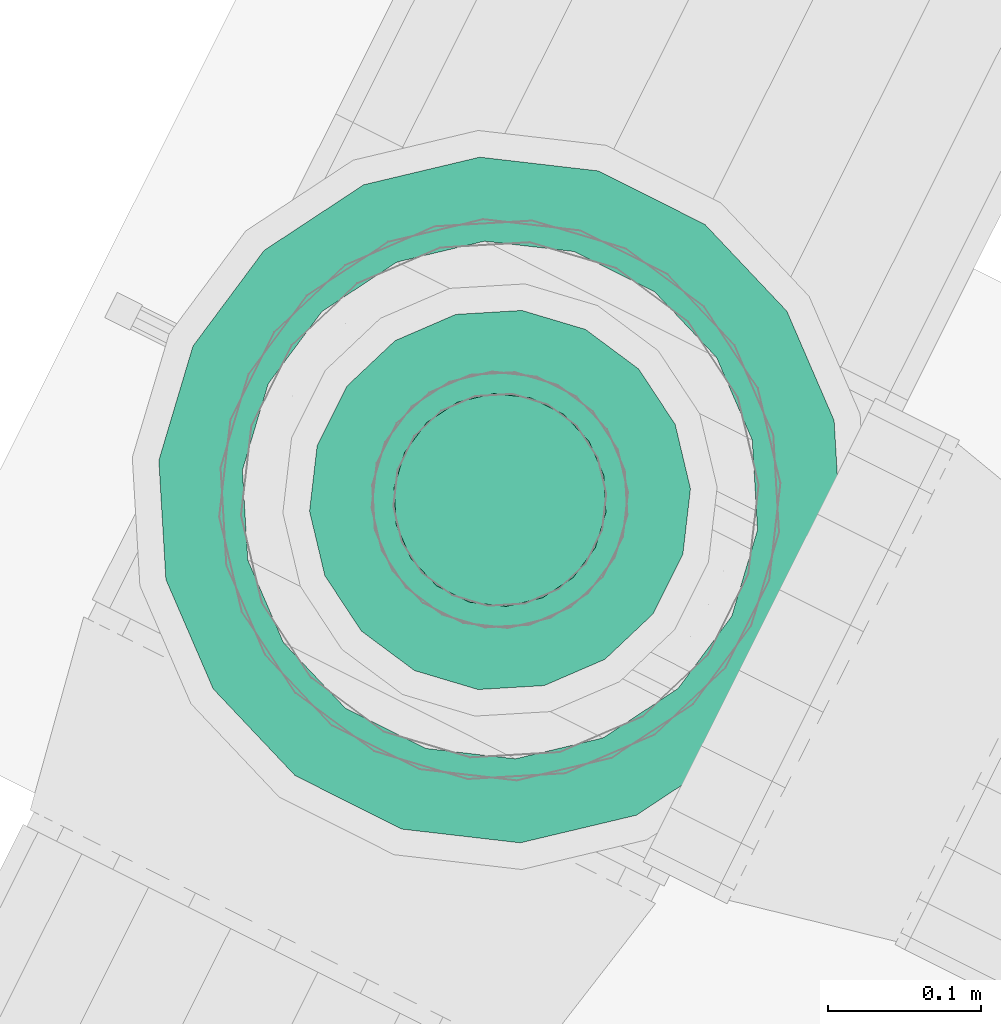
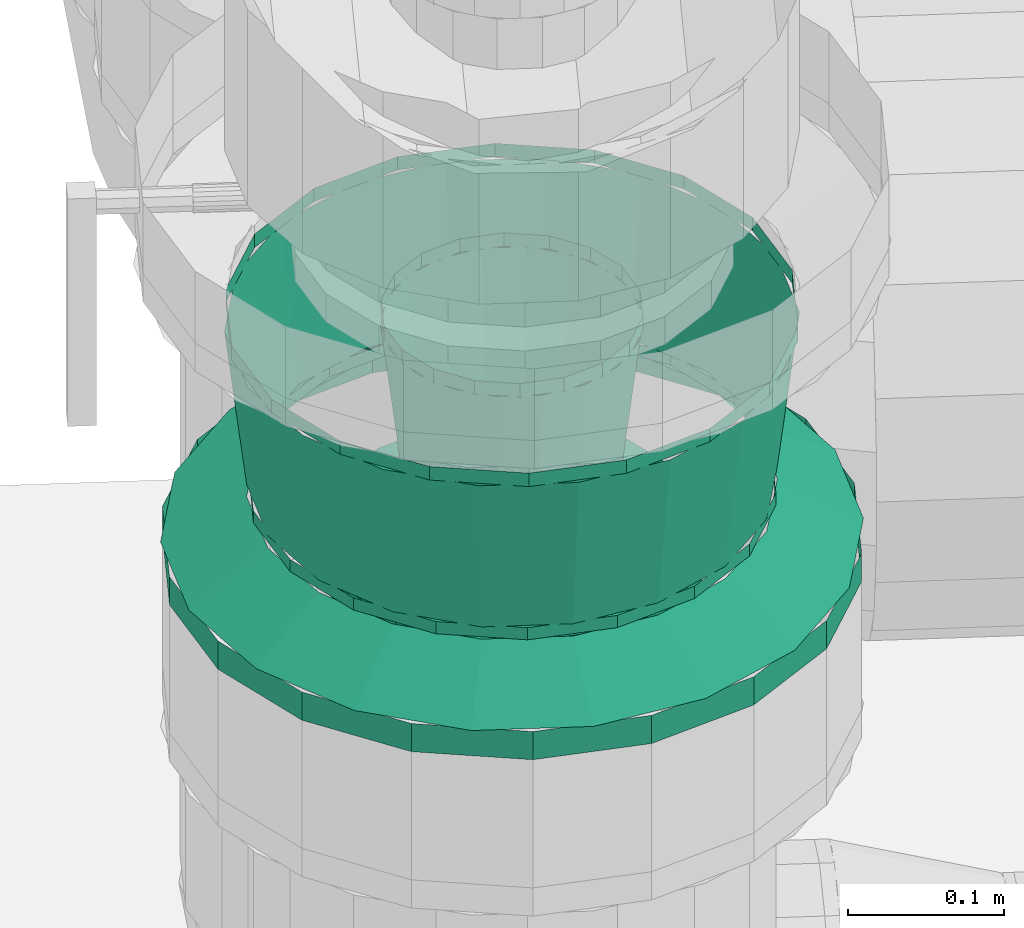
# One storey, part 107 of 152: 2 flow fittings.
"""IFC2X3 building model written with IfcOpenShell, lengths in metres."""

import ifcopenshell
import ifcopenshell.guid

model = None  # the IFC model being written
_history = None  # IfcOwnerHistory: only IFC2X3 demands one
_inside = {}  # id of a spatial element -> (the spatial element, [elements in it])
_under = {}  # id of a project, library or spatial element -> (it, [spatial elements below it])
_declared = {}  # id of a project -> (the project, [libraries it declares])
_typed = {}  # id of a type object -> (the type object, [elements of that type])
_made_of = {}  # id of a material, layer set ... -> (it, [elements and type objects made of it])


def new_model(schema):
    """Start an empty IFC model of exactly this schema.

    Asked for "IFC4X3", IfcOpenShell would pick the latest addendum, in which some entities
    have other attributes; the version numbers below select the first issue.
    IFC2X3 requires an IfcOwnerHistory on every rooted entity: one is made here for all.
    """
    global model, _history
    if schema == "IFC4X3":
        model = ifcopenshell.file(schema_version=(4, 3, 0, 0))
    else:
        model = ifcopenshell.file(schema=schema)
    _inside.clear()
    _under.clear()
    _declared.clear()
    _typed.clear()
    _made_of.clear()
    _history = None
    if model.schema == "IFC2X3":
        org = make("IfcOrganization", Name="unknown")
        user = make(
            "IfcPersonAndOrganization",
            ThePerson=make("IfcPerson", FamilyName="unknown"),
            TheOrganization=org,
        )
        app = make(
            "IfcApplication",
            ApplicationDeveloper=org,
            Version="unknown",
            ApplicationFullName="unknown",
            ApplicationIdentifier="unknown",
        )
        _history = make(
            "IfcOwnerHistory",
            OwningUser=user,
            OwningApplication=app,
            ChangeAction="ADDED",
            CreationDate=0,
        )
    return model


def make(cls, **values):
    """One entity of the class cls with the attributes given. An attribute that is None is left unset."""
    return model.create_entity(
        cls, **{name: value for name, value in values.items() if value is not None}
    )


def rooted(cls, **values):
    """An entity with a GlobalId (a new one), such as an element, a storey or a relation."""
    return make(cls, GlobalId=ifcopenshell.guid.new(), OwnerHistory=_history, **values)


def si_unit(unit_type, name, prefix=None):
    """IfcSIUnit, for example si_unit("LENGTHUNIT", "METRE", prefix="MILLI")."""
    return make("IfcSIUnit", UnitType=unit_type, Prefix=prefix, Name=name)


def derived_unit(unit_type, elements):
    """IfcDerivedUnit: a product of units, each with its exponent."""
    return make(
        "IfcDerivedUnit",
        Elements=[
            make("IfcDerivedUnitElement", Unit=unit, Exponent=power)
            for unit, power in elements
        ],
        UnitType=unit_type,
    )


def assignment(units):
    """IfcUnitAssignment: the units of a project."""
    return None if units is None else make("IfcUnitAssignment", Units=units)


def point(xyz):
    """IfcCartesianPoint."""
    return None if xyz is None else make("IfcCartesianPoint", Coordinates=xyz)


def direction(xyz):
    """IfcDirection."""
    return None if xyz is None else make("IfcDirection", DirectionRatios=xyz)


def frame(location, z_axis=None, x_axis=None):
    """IfcAxis2Placement3D, a coordinate frame: its origin and axes. An axis left out is left unset."""
    return make(
        "IfcAxis2Placement3D",
        Location=point(location),
        Axis=direction(z_axis),
        RefDirection=direction(x_axis),
    )


def origin():
    """The frame at (0, 0, 0) with its axes left unset."""
    return frame((0.0, 0.0, 0.0))


def place(relative_to, where):
    """IfcLocalPlacement: puts the frame where relative to a parent placement (None: the world)."""
    return make(
        "IfcLocalPlacement", PlacementRelTo=relative_to, RelativePlacement=where
    )


def context(
    kind, dimensions, precision=None, world=None, true_north=None, identifier=None
):
    """IfcGeometricRepresentationContext, for example the 3D "Model" context."""
    return make(
        "IfcGeometricRepresentationContext",
        ContextIdentifier=identifier,
        ContextType=kind,
        CoordinateSpaceDimension=dimensions,
        Precision=precision,
        WorldCoordinateSystem=world,
        TrueNorth=true_north,
    )


def subcontext(parent, identifier, kind, view, scale=None):
    """IfcGeometricRepresentationSubContext, for example "Body" below "Model"."""
    return make(
        "IfcGeometricRepresentationSubContext",
        ContextIdentifier=identifier,
        ContextType=kind,
        ParentContext=parent,
        TargetScale=scale,
        TargetView=view,
    )


def project(units=None, contexts=None):
    """IfcProject with its units and contexts."""
    return rooted(
        "IfcProject",
        Name="project",
        RepresentationContexts=contexts,
        UnitsInContext=assignment(units),
    )


def spatial(cls, under=None, at=None, **own):
    """A site, building, storey or space (cls), placed at a placement, below another one or the project."""
    s = rooted(cls, ObjectPlacement=at, **own)
    if under is not None:
        _under.setdefault(under.id(), (under, []))[1].append(s)
    return s


def faces_of(points, faces, orient=None, outer=None):
    """IfcFace entities. A face is a list of loops; a loop is a list of indices into points, from 0.

    orient and outer hold one flag for each loop. By default every Orientation is true, the
    first loop of a face is its IfcFaceOuterBound and the others are IfcFaceBound.
    """
    made = []
    for i, loops in enumerate(faces):
        bounds = []
        for j, loop in enumerate(loops):
            is_outer = j == 0 if outer is None else outer[i][j]
            bounds.append(
                make(
                    "IfcFaceOuterBound" if is_outer else "IfcFaceBound",
                    Bound=make("IfcPolyLoop", Polygon=[points[k] for k in loop]),
                    Orientation=True if orient is None else orient[i][j],
                )
            )
        made.append(make("IfcFace", Bounds=bounds))
    return made


def face_set(faces, orient=None, outer=None):
    """The faces of one IfcConnectedFaceSet. surface_model builds it on its shared points."""
    return ("IfcConnectedFaceSet", faces, orient, outer)


def surface_model(cls, points, shells):
    """IfcFaceBasedSurfaceModel or IfcShellBasedSurfaceModel (cls): surfaces that need not close."""
    shared = [point(p) for p in points]
    made = [make(c, CfsFaces=faces_of(shared, fs, o, b)) for c, fs, o, b in shells]
    if cls == "IfcFaceBasedSurfaceModel":
        return make(cls, FbsmFaces=made)
    return make(cls, SbsmBoundary=made)


def shape(context_of_items, identifier, shape_type, items):
    """IfcShapeRepresentation: the items that make up one representation, for example the "Body"."""
    return make(
        "IfcShapeRepresentation",
        ContextOfItems=context_of_items,
        RepresentationIdentifier=identifier,
        RepresentationType=shape_type,
        Items=items,
    )


def source(mapping_origin, context_of_items, identifier, shape_type, items):
    """IfcRepresentationMap: a shape defined once, which mapped items show again and again."""
    return make(
        "IfcRepresentationMap",
        MappingOrigin=mapping_origin,
        MappedRepresentation=shape(context_of_items, identifier, shape_type, items),
    )


def transform(
    local_origin,
    x_axis=None,
    y_axis=None,
    z_axis=None,
    scale=None,
    scale2=None,
    scale3=None,
    uniform=True,
):
    """IfcCartesianTransformationOperator3D, or its non-uniform kind. x_axis, y_axis, z_axis: its Axis1, 2, 3."""
    if uniform:
        return make(
            "IfcCartesianTransformationOperator3D",
            Axis1=direction(x_axis),
            Axis2=direction(y_axis),
            LocalOrigin=point(local_origin),
            Scale=scale,
            Axis3=direction(z_axis),
        )
    return make(
        "IfcCartesianTransformationOperator3DnonUniform",
        Axis1=direction(x_axis),
        Axis2=direction(y_axis),
        LocalOrigin=point(local_origin),
        Scale=scale,
        Axis3=direction(z_axis),
        Scale2=scale2,
        Scale3=scale3,
    )


def mapped(mapping_source, mapping_target):
    """IfcMappedItem: shows the shape of a source again, moved by a transform."""
    return make(
        "IfcMappedItem", MappingSource=mapping_source, MappingTarget=mapping_target
    )


def material(Name=None, Category=None):
    """IfcMaterial."""
    return make("IfcMaterial", Name=Name, Category=Category)


def made_of(thing, what):
    """Note that an element or type object is made of a material, layer set ...; save() writes the relation."""
    if what is not None:
        _made_of.setdefault(what.id(), (what, []))[1].append(thing)
    return thing


def type_object(cls, material=None, **own):
    """A type object (cls), such as IfcWallType, which elements share."""
    return made_of(rooted(cls, **own), material)


def type_shapes(of_type, sources):
    """Give a type object the sources (RepresentationMaps) that its elements show as mapped items."""
    of_type.RepresentationMaps = sources


def element(
    cls,
    number,
    at=None,
    inside=None,
    cuts=None,
    type_object=None,
    material=None,
    context=None,
    identifier="Body",
    shape_type=None,
    held_by="IfcProductDefinitionShape",
    body=None,
    shapes=None,
    **own,
):
    """One element of the class cls, such as IfcWall. Its Tag is "e" and its number.

    at: its placement. inside: the storey or other place that contains it. cuts: it is an
    opening in that element (IfcRelVoidsElement). A single representation is given by context,
    identifier, shape_type and body (its items); several are given by shapes. held_by: the class
    of the entity that holds the representations. save() writes the other relations.
    """
    e = rooted(cls, Tag="e%d" % number, ObjectPlacement=at, **own)
    if body is not None:
        shapes = [shape(context, identifier, shape_type, body)]
    if shapes is not None:
        e.Representation = make(held_by, Representations=shapes)
    if inside is not None:
        _inside.setdefault(inside.id(), (inside, []))[1].append(e)
    if cuts is not None:
        rooted(
            "IfcRelVoidsElement", RelatingBuildingElement=cuts, RelatedOpeningElement=e
        )
    if type_object is not None:
        _typed.setdefault(type_object.id(), (type_object, []))[1].append(e)
    return made_of(e, material)


def aggregate(whole, parts):
    """IfcRelAggregates: a whole, such as a stair, and the parts it consists of."""
    return rooted("IfcRelAggregates", RelatingObject=whole, RelatedObjects=parts)


def save(model, path):
    """Write the relations noted so far, then the file.

    IfcRelAggregates (storeys below a building ...), IfcRelContainedInSpatialStructure (elements
    in a storey), IfcRelDefinesByType, IfcRelAssociatesMaterial and IfcRelDeclares: one each for
    every whole, place, type object, material and project.
    """
    for whole, parts in _under.values():
        aggregate(whole, parts)
    for where, things in _inside.values():
        rooted(
            "IfcRelContainedInSpatialStructure",
            RelatedElements=things,
            RelatingStructure=where,
        )
    for kind, things in _typed.values():
        rooted("IfcRelDefinesByType", RelatedObjects=things, RelatingType=kind)
    for what, things in _made_of.values():
        rooted("IfcRelAssociatesMaterial", RelatedObjects=things, RelatingMaterial=what)
    for by, libraries in _declared.values():
        rooted("IfcRelDeclares", RelatingContext=by, RelatedDefinitions=libraries)
    model.write(path)


model = new_model("IFC2X3")

# Units and contexts
model_context = context("Model", 3, precision=5.2338327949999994e-05, world=origin(), true_north=direction((0.0, 1.0)))
body_context = subcontext(model_context, "Body", "Model", "MODEL_VIEW")
ifc_project = project(units=[si_unit("LENGTHUNIT", "METRE"), si_unit("AREAUNIT", "SQUARE_METRE"), si_unit("VOLUMEUNIT", "CUBIC_METRE"), si_unit("MASSUNIT", "GRAM", prefix="KILO"), si_unit("PLANEANGLEUNIT", "RADIAN"), derived_unit("THERMALTRANSMITTANCEUNIT", [(si_unit("MASSUNIT", "GRAM", prefix="KILO"), 1), (si_unit("THERMODYNAMICTEMPERATUREUNIT", "KELVIN"), -1), (si_unit("TIMEUNIT", "SECOND"), -3)])], contexts=[model_context])

# Site, building, storey
site_placement = place(None, frame((0.0, 0.0, 0.0), z_axis=(0.0, 0.0, 1.0), x_axis=(0.8939966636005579, -0.4480736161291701, 0.0)))
site = spatial("IfcSite", under=ifc_project, at=site_placement, Name="Default", CompositionType="ELEMENT")
building_placement = place(site_placement, origin())
building = spatial("IfcBuilding", under=site, at=building_placement, CompositionType="ELEMENT")
storey_placement = place(building_placement, frame((0.0, 0.0, 2.7499999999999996)))
storey = spatial("IfcBuildingStorey", under=building, at=storey_placement, Name="1. Obergeschoss", CompositionType="ELEMENT", Elevation=2.7499999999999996)

# Flow fittings
ifc_material = material(Name="IfcSurfaceStyle #9317")
distribution_element_type_1 = type_object("IfcDistributionElementType", Name="Flansch 236932:Flansch 236932", material=ifc_material)
shared_shape_1 = source(origin(), body_context, "Body", "SurfaceModel", [
    surface_model("IfcFaceBasedSurfaceModel", [(9.625770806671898, 6.466748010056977, 4.27507198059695), (9.668523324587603, 6.4742864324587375, 4.27507198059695), (9.668523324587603, 6.4742864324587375, 4.297071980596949), (9.625770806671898, 6.466748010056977, 4.297071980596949), (9.706119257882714, 6.495992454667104, 4.27507198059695), (9.706119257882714, 6.495992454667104, 4.297071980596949), (9.734023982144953, 6.5292480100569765, 4.27507198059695), (9.734023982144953, 6.5292480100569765, 4.297071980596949), (9.748871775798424, 6.57004198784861, 4.27507198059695), (9.748871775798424, 6.57004198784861, 4.297071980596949), (9.748871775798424, 6.613454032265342, 4.27507198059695), (9.748871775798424, 6.613454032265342, 4.297071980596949), (9.734023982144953, 6.654248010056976, 4.27507198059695), (9.734023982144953, 6.654248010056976, 4.297071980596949), (9.706119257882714, 6.687503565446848, 4.27507198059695), (9.706119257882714, 6.687503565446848, 4.297071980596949), (9.668523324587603, 6.709209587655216, 4.27507198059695), (9.668523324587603, 6.709209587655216, 4.297071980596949), (9.625770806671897, 6.716748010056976, 4.27507198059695), (9.625770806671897, 6.716748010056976, 4.297071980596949), (9.583018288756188, 6.709209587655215, 4.27507198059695), (9.583018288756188, 6.709209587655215, 4.297071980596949), (9.54542235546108, 6.687503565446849, 4.27507198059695), (9.54542235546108, 6.687503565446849, 4.297071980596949), (9.517517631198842, 6.654248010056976, 4.27507198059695), (9.517517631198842, 6.654248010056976, 4.297071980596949), (9.50266983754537, 6.613454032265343, 4.27507198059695), (9.50266983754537, 6.613454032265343, 4.297071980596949), (9.50266983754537, 6.57004198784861, 4.27507198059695), (9.50266983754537, 6.57004198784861, 4.297071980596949), (9.517517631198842, 6.5292480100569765, 4.27507198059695), (9.517517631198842, 6.5292480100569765, 4.297071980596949), (9.545422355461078, 6.495992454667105, 4.27507198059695), (9.545422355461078, 6.495992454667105, 4.297071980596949), (9.583018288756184, 6.4742864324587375, 4.27507198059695), (9.583018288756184, 6.4742864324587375, 4.297071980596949), (9.625770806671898, 6.5917480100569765, 4.297071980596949), (9.703770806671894, 6.591748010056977, 4.297071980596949), (9.699066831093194, 6.61842558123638, 4.297071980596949), (9.69140833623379, 6.615638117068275, 4.33007198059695), (9.695620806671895, 6.591748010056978, 4.3300719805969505), (9.685522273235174, 6.641885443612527, 4.297071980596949), (9.679279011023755, 6.636646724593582, 4.33007198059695), (9.664770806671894, 6.6592979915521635, 4.297071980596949), (9.660695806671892, 6.652239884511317, 4.33007198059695), (9.639315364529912, 6.668563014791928, 4.297071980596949), (9.637900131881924, 6.660536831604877, 4.33007198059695), (9.612226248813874, 6.668563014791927, 4.297071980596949), (9.613641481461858, 6.660536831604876, 4.33007198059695), (9.586770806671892, 6.659297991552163, 4.297071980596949), (9.590845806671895, 6.652239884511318, 4.33007198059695), (9.56601934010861, 6.641885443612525, 4.297071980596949), (9.572262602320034, 6.636646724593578, 4.33007198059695), (9.552474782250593, 6.618425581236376, 4.297071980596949), (9.560133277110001, 6.61563811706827, 4.33007198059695), (9.547770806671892, 6.591748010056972, 4.297071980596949), (9.555920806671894, 6.591748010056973, 4.33007198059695), (9.552474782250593, 6.565070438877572, 4.297071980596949), (9.560133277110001, 6.5678579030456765, 4.33007198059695), (9.566019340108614, 6.541610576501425, 4.297071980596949), (9.572262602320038, 6.546849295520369, 4.33007198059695), (9.586770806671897, 6.52419802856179, 4.297071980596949), (9.590845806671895, 6.531256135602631, 4.330071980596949), (9.612226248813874, 6.514933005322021, 4.29707198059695), (9.613641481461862, 6.522959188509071, 4.33007198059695), (9.639315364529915, 6.514933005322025, 4.297071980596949), (9.63790013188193, 6.5229591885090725, 4.33007198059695), (9.664770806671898, 6.52419802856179, 4.297071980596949), (9.660695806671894, 6.531256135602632, 4.33007198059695), (9.685522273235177, 6.5416105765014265, 4.297071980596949), (9.679279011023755, 6.546849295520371, 4.33007198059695), (9.699066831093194, 6.5650704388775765, 4.297071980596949), (9.691408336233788, 6.567857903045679, 4.330071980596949), (9.625770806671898, 6.366748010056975, 4.27507198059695), (9.702725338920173, 6.380317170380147, 4.27507198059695), (9.702725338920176, 6.380317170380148, 4.297071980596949), (9.6257708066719, 6.366748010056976, 4.297071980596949), (9.770398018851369, 6.419388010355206, 4.27507198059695), (9.77039801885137, 6.419388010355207, 4.297071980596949), (9.8206265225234, 6.479248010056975, 4.27507198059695), (9.820626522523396, 6.479248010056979, 4.297071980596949), (9.847352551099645, 6.552677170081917, 4.27507198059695), (9.84735255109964, 6.552677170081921, 4.297071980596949), (9.847352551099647, 6.630818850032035, 4.27507198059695), (9.847352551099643, 6.63081885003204, 4.297071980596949), (9.820626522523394, 6.704248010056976, 4.27507198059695), (9.820626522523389, 6.70424801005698, 4.297071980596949), (9.770398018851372, 6.764108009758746, 4.27507198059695), (9.770398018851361, 6.76410800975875, 4.297071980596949), (9.702725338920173, 6.803178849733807, 4.27507198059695), (9.702725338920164, 6.803178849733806, 4.297071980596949), (9.625770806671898, 6.816748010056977, 4.27507198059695), (9.625770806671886, 6.816748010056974, 4.297071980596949), (9.548816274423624, 6.803178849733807, 4.27507198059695), (9.548816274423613, 6.803178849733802, 4.297071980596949), (9.481143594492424, 6.764108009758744, 4.27507198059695), (9.481143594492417, 6.764108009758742, 4.297071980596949), (9.430915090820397, 6.704248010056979, 4.27507198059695), (9.430915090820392, 6.704248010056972, 4.297071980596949), (9.404189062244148, 6.6308188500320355, 4.27507198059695), (9.404189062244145, 6.630818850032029, 4.297071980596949), (9.404189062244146, 6.5526771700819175, 4.27507198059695), (9.404189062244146, 6.5526771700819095, 4.297071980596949), (9.430915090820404, 6.479248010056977, 4.27507198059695), (9.430915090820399, 6.4792480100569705, 4.297071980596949), (9.481143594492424, 6.419388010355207, 4.27507198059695), (9.481143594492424, 6.419388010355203, 4.297071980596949), (9.548816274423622, 6.380317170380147, 4.27507198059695), (9.548816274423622, 6.3803171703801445, 4.297071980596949), (9.850770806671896, 6.59174801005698, 4.297071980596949), (9.837201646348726, 6.668702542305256, 4.297071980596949), (9.785377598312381, 6.649840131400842, 4.330071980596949), (9.795620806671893, 6.591748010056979, 4.33007198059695), (9.79813080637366, 6.736375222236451, 4.297071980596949), (9.75588345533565, 6.700925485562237, 4.330071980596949), (9.738270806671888, 6.786603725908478, 4.297071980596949), (9.710695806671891, 6.738842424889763, 4.33007198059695), (9.664841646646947, 6.813329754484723, 4.297071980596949), (9.65526494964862, 6.7590176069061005, 4.330071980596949), (9.58669996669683, 6.813329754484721, 4.29707198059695), (9.596276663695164, 6.759017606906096, 4.33007198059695), (9.513270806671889, 6.7866037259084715, 4.297071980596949), (9.540845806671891, 6.73884242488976, 4.330071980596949), (9.453410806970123, 6.7363752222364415, 4.297071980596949), (9.495658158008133, 6.70092548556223, 4.33007198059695), (9.414339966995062, 6.668702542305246, 4.29707198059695), (9.46616401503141, 6.649840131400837, 4.33007198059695), (9.400770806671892, 6.591748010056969, 4.297071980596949), (9.455920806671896, 6.591748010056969, 4.330071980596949), (9.414339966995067, 6.514793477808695, 4.297071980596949), (9.466164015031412, 6.533655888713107, 4.33007198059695), (9.45341080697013, 6.447120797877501, 4.297071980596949), (9.495658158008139, 6.482570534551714, 4.330071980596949), (9.5132708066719, 6.3968922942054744, 4.29707198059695), (9.540845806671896, 6.444653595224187, 4.33007198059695), (9.586699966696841, 6.370166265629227, 4.297071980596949), (9.59627666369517, 6.424478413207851, 4.330071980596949), (9.664841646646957, 6.370166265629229, 4.297071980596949), (9.655264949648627, 6.4244784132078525, 4.330071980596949), (9.738270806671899, 6.396892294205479, 4.29707198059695), (9.710695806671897, 6.44465359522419, 4.33007198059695), (9.798130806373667, 6.447120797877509, 4.297071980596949), (9.755883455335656, 6.48257053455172, 4.330071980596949), (9.837201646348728, 6.5147934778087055, 4.297071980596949), (9.785377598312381, 6.533655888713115, 4.330071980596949)], [face_set([[[0, 1, 2, 3]], [[1, 4, 5, 2]], [[4, 6, 7, 5]], [[6, 8, 9, 7]], [[8, 10, 11, 9]], [[10, 12, 13, 11]], [[12, 14, 15, 13]], [[14, 16, 17, 15]], [[16, 18, 19, 17]], [[18, 20, 21, 19]], [[20, 22, 23, 21]], [[22, 24, 25, 23]], [[24, 26, 27, 25]], [[26, 28, 29, 27]], [[28, 30, 31, 29]], [[30, 32, 33, 31]], [[32, 34, 35, 33]], [[34, 0, 3, 35]], [[36, 35, 3]], [[36, 33, 35]], [[36, 31, 33]], [[36, 29, 31]], [[36, 27, 29]], [[36, 25, 27]], [[36, 23, 25]], [[36, 21, 23]], [[36, 19, 21]], [[36, 17, 19]], [[36, 15, 17]], [[36, 13, 15]], [[36, 11, 13]], [[36, 9, 11]], [[36, 7, 9]], [[36, 5, 7]], [[36, 2, 5]], [[36, 3, 2]], [[37, 38, 39, 40]], [[38, 41, 42, 39]], [[41, 43, 44, 42]], [[43, 45, 46, 44]], [[45, 47, 48, 46]], [[47, 49, 50, 48]], [[49, 51, 52, 50]], [[51, 53, 54, 52]], [[53, 55, 56, 54]], [[55, 57, 58, 56]], [[57, 59, 60, 58]], [[59, 61, 62, 60]], [[61, 63, 64, 62]], [[63, 65, 66, 64]], [[65, 67, 68, 66]], [[67, 69, 70, 68]], [[69, 71, 72, 70]], [[71, 37, 40, 72]], [[73, 74, 75, 76]], [[74, 77, 78, 75]], [[77, 79, 80, 78]], [[79, 81, 82, 80]], [[81, 83, 84, 82]], [[83, 85, 86, 84]], [[85, 87, 88, 86]], [[87, 89, 90, 88]], [[89, 91, 92, 90]], [[91, 93, 94, 92]], [[93, 95, 96, 94]], [[95, 97, 98, 96]], [[97, 99, 100, 98]], [[99, 101, 102, 100]], [[101, 103, 104, 102]], [[103, 105, 106, 104]], [[105, 107, 108, 106]], [[107, 73, 76, 108]], [[109, 110, 111, 112]], [[110, 113, 114, 111]], [[113, 115, 116, 114]], [[115, 117, 118, 116]], [[117, 119, 120, 118]], [[119, 121, 122, 120]], [[121, 123, 124, 122]], [[123, 125, 126, 124]], [[125, 127, 128, 126]], [[127, 129, 130, 128]], [[129, 131, 132, 130]], [[131, 133, 134, 132]], [[133, 135, 136, 134]], [[135, 137, 138, 136]], [[137, 139, 140, 138]], [[139, 141, 142, 140]], [[141, 143, 144, 142]], [[143, 109, 112, 144]]])]),
])
type_shapes(distribution_element_type_1, [shared_shape_1])
flow_fitting_1_placement = place(storey_placement, frame((0.0, 0.0, -2.7499999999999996)))
element("IfcFlowFitting", 1, at=flow_fitting_1_placement, inside=storey, type_object=distribution_element_type_1, material=ifc_material, Name="Flansch", ObjectType="Flansch", context=body_context, shape_type="MappedRepresentation", body=[
    mapped(shared_shape_1, transform((0.0, 0.0, 0.0), scale=1.0)),
])
distribution_element_type_2 = type_object("IfcDistributionElementType", Name="Übergangsstück 236955:Übergangsstück 236955", material=ifc_material)
shared_shape_2 = source(origin(), body_context, "Body", "SurfaceModel", [
    surface_model("IfcFaceBasedSurfaceModel", [(9.625770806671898, 6.661598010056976, 4.3300719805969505), (9.601880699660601, 6.657385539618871, 4.3300719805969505), (9.601880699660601, 6.657385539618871, 4.3396011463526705), (9.625770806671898, 6.661598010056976, 4.3396011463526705), (9.580872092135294, 6.645256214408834, 4.3300719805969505), (9.580872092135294, 6.645256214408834, 4.3396011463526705), (9.565278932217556, 6.626673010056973, 4.3300719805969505), (9.565278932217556, 6.626673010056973, 4.3396011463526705), (9.556981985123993, 6.603877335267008, 4.3300719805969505), (9.556981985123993, 6.603877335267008, 4.3396011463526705), (9.556981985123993, 6.579618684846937, 4.3300719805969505), (9.556981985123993, 6.579618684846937, 4.3396011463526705), (9.565278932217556, 6.5568230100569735, 4.3300719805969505), (9.565278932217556, 6.5568230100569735, 4.3396011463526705), (9.580872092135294, 6.538239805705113, 4.3300719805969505), (9.580872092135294, 6.538239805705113, 4.3396011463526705), (9.601880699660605, 6.526110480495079, 4.3300719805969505), (9.601880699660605, 6.526110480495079, 4.3396011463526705), (9.625770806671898, 6.521898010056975, 4.3300719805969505), (9.625770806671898, 6.521898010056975, 4.3396011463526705), (9.649660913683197, 6.52611048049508, 4.33007198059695), (9.6496609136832, 6.526110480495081, 4.3396011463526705), (9.670669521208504, 6.538239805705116, 4.3300719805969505), (9.670669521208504, 6.538239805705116, 4.3396011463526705), (9.68626268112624, 6.556823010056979, 4.3300719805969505), (9.68626268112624, 6.556823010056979, 4.3396011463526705), (9.694559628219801, 6.5796186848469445, 4.3300719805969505), (9.694559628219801, 6.5796186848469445, 4.3396011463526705), (9.694559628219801, 6.603877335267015, 4.3300719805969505), (9.694559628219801, 6.603877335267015, 4.3396011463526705), (9.686262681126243, 6.62667301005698, 4.3300719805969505), (9.686262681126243, 6.62667301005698, 4.3396011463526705), (9.670669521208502, 6.645256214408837, 4.3300719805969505), (9.670669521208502, 6.645256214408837, 4.3396011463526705), (9.649660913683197, 6.657385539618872, 4.3300719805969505), (9.649660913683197, 6.657385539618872, 4.3396011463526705), (9.5559208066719, 6.591748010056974, 4.3396011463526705), (9.560133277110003, 6.567857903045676, 4.3396011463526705), (9.546695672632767, 6.562967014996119, 4.459612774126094), (9.541620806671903, 6.591748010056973, 4.459612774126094), (9.57226260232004, 6.54684929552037, 4.3396011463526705), (9.561308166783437, 6.537657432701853, 4.459612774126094), (9.590845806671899, 6.53125613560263, 4.3396011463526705), (9.583695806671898, 6.518871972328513, 4.459612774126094), (9.613641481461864, 6.522959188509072, 4.3396011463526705), (9.611158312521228, 6.508876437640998, 4.459612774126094), (9.637900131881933, 6.522959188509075, 4.3396011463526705), (9.640383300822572, 6.508876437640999, 4.459612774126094), (9.6606958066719, 6.531256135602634, 4.3396011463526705), (9.667845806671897, 6.518871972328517, 4.459612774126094), (9.67927901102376, 6.5468492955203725, 4.3396011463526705), (9.69023344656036, 6.537657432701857, 4.459612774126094), (9.691408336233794, 6.567857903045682, 4.3396011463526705), (9.704845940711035, 6.562967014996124, 4.459612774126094), (9.695620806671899, 6.591748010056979, 4.3396011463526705), (9.709920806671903, 6.59174801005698, 4.459612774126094), (9.691408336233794, 6.6156381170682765, 4.3396011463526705), (9.704845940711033, 6.6205290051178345, 4.459612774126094), (9.67927901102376, 6.636646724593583, 4.3396011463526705), (9.690233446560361, 6.6458385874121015, 4.459612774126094), (9.660695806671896, 6.65223988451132, 4.3396011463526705), (9.667845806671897, 6.664624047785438, 4.459612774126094), (9.637900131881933, 6.6605368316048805, 4.3396011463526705), (9.64038330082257, 6.674619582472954, 4.459612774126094), (9.613641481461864, 6.660536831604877, 4.3396011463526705), (9.611158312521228, 6.674619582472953, 4.459612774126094), (9.590845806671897, 6.652239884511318, 4.3396011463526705), (9.5836958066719, 6.664624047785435, 4.459612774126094), (9.57226260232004, 6.636646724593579, 4.3396011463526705), (9.561308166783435, 6.6458385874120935, 4.459612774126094), (9.560133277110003, 6.61563811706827, 4.3396011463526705), (9.546695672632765, 6.620529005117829, 4.459612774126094), (9.6257708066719, 6.675898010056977, 4.459612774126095), (9.596989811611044, 6.67082314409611, 4.459612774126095), (9.596989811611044, 6.67082314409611, 4.47007198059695), (9.6257708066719, 6.675898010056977, 4.47007198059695), (9.571680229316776, 6.656210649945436, 4.459612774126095), (9.571680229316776, 6.656210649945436, 4.47007198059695), (9.55289476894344, 6.633823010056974, 4.459612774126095), (9.55289476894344, 6.633823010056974, 4.47007198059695), (9.542899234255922, 6.606360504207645, 4.459612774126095), (9.542899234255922, 6.606360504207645, 4.47007198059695), (9.542899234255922, 6.577135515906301, 4.459612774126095), (9.542899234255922, 6.577135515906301, 4.47007198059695), (9.55289476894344, 6.549673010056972, 4.459612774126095), (9.55289476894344, 6.549673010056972, 4.47007198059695), (9.571680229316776, 6.527285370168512, 4.459612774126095), (9.571680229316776, 6.527285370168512, 4.47007198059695), (9.596989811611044, 6.512672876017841, 4.459612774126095), (9.596989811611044, 6.512672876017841, 4.47007198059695), (9.625770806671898, 6.5075980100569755, 4.459612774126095), (9.625770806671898, 6.5075980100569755, 4.47007198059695), (9.654551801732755, 6.5126728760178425, 4.459612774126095), (9.654551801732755, 6.5126728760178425, 4.47007198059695), (9.67986138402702, 6.527285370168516, 4.459612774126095), (9.67986138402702, 6.527285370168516, 4.47007198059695), (9.69864684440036, 6.549673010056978, 4.459612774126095), (9.69864684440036, 6.549673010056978, 4.47007198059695), (9.708642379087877, 6.577135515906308, 4.459612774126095), (9.708642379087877, 6.577135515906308, 4.47007198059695), (9.708642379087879, 6.606360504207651, 4.459612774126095), (9.708642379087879, 6.606360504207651, 4.47007198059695), (9.698646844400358, 6.633823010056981, 4.459612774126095), (9.698646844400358, 6.633823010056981, 4.47007198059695), (9.67986138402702, 6.65621064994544, 4.459612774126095), (9.67986138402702, 6.65621064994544, 4.47007198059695), (9.654551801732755, 6.670823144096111, 4.459612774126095), (9.654551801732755, 6.670823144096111, 4.47007198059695), (9.625770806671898, 6.7615980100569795, 4.3300719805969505), (9.567678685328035, 6.751354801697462, 4.3300719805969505), (9.567678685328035, 6.751354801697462, 4.3396011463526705), (9.625770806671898, 6.7615980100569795, 4.3396011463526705), (9.516593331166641, 6.721860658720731, 4.3300719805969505), (9.516593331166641, 6.721860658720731, 4.3396011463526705), (9.478676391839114, 6.67667301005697, 4.3300719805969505), (9.478676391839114, 6.67667301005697, 4.3396011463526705), (9.458501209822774, 6.621242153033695, 4.3300719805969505), (9.458501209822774, 6.621242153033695, 4.3396011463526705), (9.458501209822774, 6.56225386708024, 4.3300719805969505), (9.458501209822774, 6.56225386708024, 4.3396011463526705), (9.478676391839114, 6.506823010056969, 4.3300719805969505), (9.478676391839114, 6.506823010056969, 4.3396011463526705), (9.516593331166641, 6.461635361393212, 4.3300719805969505), (9.516593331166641, 6.461635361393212, 4.3396011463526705), (9.567678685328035, 6.432141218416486, 4.3300719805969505), (9.567678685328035, 6.432141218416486, 4.3396011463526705), (9.625770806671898, 6.4218980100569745, 4.3300719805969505), (9.625770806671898, 6.4218980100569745, 4.3396011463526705), (9.683862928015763, 6.432141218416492, 4.3300719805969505), (9.683862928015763, 6.432141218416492, 4.3396011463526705), (9.73494828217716, 6.461635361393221, 4.3300719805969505), (9.73494828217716, 6.461635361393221, 4.3396011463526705), (9.772865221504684, 6.506823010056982, 4.3300719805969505), (9.772865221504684, 6.506823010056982, 4.3396011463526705), (9.79304040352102, 6.562253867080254, 4.3300719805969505), (9.79304040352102, 6.562253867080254, 4.3396011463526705), (9.793040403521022, 6.6212421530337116, 4.3300719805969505), (9.793040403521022, 6.6212421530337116, 4.3396011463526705), (9.772865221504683, 6.676673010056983, 4.3300719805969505), (9.772865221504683, 6.676673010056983, 4.3396011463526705), (9.734948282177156, 6.721860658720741, 4.3300719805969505), (9.734948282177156, 6.721860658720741, 4.3396011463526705), (9.683862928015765, 6.751354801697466, 4.3300719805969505), (9.683862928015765, 6.751354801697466, 4.3396011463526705), (9.4559208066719, 6.5917480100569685, 4.3396011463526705), (9.466164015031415, 6.533655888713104, 4.3396011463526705), (9.452726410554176, 6.528765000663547, 4.459612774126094), (9.4416208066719, 6.5917480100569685, 4.459612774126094), (9.495658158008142, 6.48257053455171, 4.3396011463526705), (9.48470372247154, 6.473378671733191, 4.459612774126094), (9.540845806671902, 6.4446535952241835, 4.3396011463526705), (9.533695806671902, 6.432269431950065, 4.459612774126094), (9.596276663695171, 6.424478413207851, 4.3396011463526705), (9.593793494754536, 6.410395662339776, 4.459612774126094), (9.655264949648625, 6.4244784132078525, 4.3396011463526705), (9.657748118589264, 6.410395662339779, 4.459612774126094), (9.710695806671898, 6.44465359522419, 4.3396011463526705), (9.717845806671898, 6.4322694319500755, 4.459612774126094), (9.755883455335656, 6.482570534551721, 4.3396011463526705), (9.766837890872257, 6.4733786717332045, 4.459612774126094), (9.785377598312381, 6.533655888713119, 4.3396011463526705), (9.798815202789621, 6.528765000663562, 4.459612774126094), (9.795620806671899, 6.591748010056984, 4.3396011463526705), (9.809920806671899, 6.591748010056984, 4.459612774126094), (9.785377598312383, 6.649840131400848, 4.3396011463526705), (9.798815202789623, 6.6547310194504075, 4.459612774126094), (9.755883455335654, 6.700925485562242, 4.3396011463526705), (9.766837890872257, 6.7101173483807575, 4.459612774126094), (9.710695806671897, 6.738842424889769, 4.3396011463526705), (9.717845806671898, 6.751226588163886, 4.459612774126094), (9.655264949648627, 6.7590176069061, 4.3396011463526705), (9.657748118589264, 6.773100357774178, 4.459612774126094), (9.596276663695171, 6.759017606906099, 4.3396011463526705), (9.593793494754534, 6.773100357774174, 4.459612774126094), (9.540845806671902, 6.738842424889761, 4.3396011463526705), (9.533695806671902, 6.7512265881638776, 4.459612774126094), (9.495658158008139, 6.70092548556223, 4.3396011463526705), (9.48470372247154, 6.710117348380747, 4.459612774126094), (9.466164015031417, 6.6498401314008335, 4.3396011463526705), (9.452726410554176, 6.654731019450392, 4.459612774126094), (9.625770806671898, 6.775898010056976, 4.459612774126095), (9.562787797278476, 6.7647924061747, 4.459612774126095), (9.562787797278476, 6.7647924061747, 4.47007198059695), (9.625770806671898, 6.775898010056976, 4.47007198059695), (9.507401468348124, 6.73281509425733, 4.459612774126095), (9.507401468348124, 6.73281509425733, 4.47007198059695), (9.466292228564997, 6.683823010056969, 4.459612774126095), (9.466292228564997, 6.683823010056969, 4.47007198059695), (9.444418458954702, 6.623725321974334, 4.459612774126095), (9.444418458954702, 6.623725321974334, 4.47007198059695), (9.444418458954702, 6.559770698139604, 4.459612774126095), (9.444418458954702, 6.559770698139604, 4.47007198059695), (9.466292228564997, 6.499673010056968, 4.459612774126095), (9.466292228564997, 6.499673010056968, 4.47007198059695), (9.507401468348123, 6.450680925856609, 4.459612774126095), (9.507401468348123, 6.450680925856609, 4.47007198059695), (9.562787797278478, 6.418703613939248, 4.459612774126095), (9.562787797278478, 6.418703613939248, 4.47007198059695), (9.625770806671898, 6.407598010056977, 4.459612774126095), (9.625770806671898, 6.407598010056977, 4.47007198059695), (9.688753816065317, 6.418703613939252, 4.459612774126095), (9.688753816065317, 6.418703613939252, 4.47007198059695), (9.744140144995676, 6.450680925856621, 4.459612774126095), (9.744140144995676, 6.450680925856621, 4.47007198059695), (9.785249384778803, 6.4996730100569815, 4.459612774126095), (9.785249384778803, 6.4996730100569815, 4.47007198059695), (9.807123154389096, 6.559770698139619, 4.459612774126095), (9.807123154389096, 6.559770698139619, 4.47007198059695), (9.8071231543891, 6.62372532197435, 4.459612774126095), (9.8071231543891, 6.62372532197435, 4.47007198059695), (9.785249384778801, 6.683823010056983, 4.459612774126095), (9.785249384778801, 6.683823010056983, 4.47007198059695), (9.744140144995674, 6.732815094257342, 4.459612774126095), (9.744140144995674, 6.732815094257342, 4.47007198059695), (9.688753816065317, 6.764792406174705, 4.459612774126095), (9.688753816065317, 6.764792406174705, 4.47007198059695)], [face_set([[[0, 1, 2, 3]], [[1, 4, 5, 2]], [[4, 6, 7, 5]], [[6, 8, 9, 7]], [[8, 10, 11, 9]], [[10, 12, 13, 11]], [[12, 14, 15, 13]], [[14, 16, 17, 15]], [[16, 18, 19, 17]], [[18, 20, 21, 19]], [[20, 22, 23, 21]], [[22, 24, 25, 23]], [[24, 26, 27, 25]], [[26, 28, 29, 27]], [[28, 30, 31, 29]], [[30, 32, 33, 31]], [[32, 34, 35, 33]], [[34, 0, 3, 35]], [[36, 37, 38, 39]], [[37, 40, 41, 38]], [[40, 42, 43, 41]], [[42, 44, 45, 43]], [[44, 46, 47, 45]], [[46, 48, 49, 47]], [[48, 50, 51, 49]], [[50, 52, 53, 51]], [[52, 54, 55, 53]], [[54, 56, 57, 55]], [[56, 58, 59, 57]], [[58, 60, 61, 59]], [[60, 62, 63, 61]], [[62, 64, 65, 63]], [[64, 66, 67, 65]], [[66, 68, 69, 67]], [[68, 70, 71, 69]], [[70, 36, 39, 71]], [[72, 73, 74, 75]], [[73, 76, 77, 74]], [[76, 78, 79, 77]], [[78, 80, 81, 79]], [[80, 82, 83, 81]], [[82, 84, 85, 83]], [[84, 86, 87, 85]], [[86, 88, 89, 87]], [[88, 90, 91, 89]], [[90, 92, 93, 91]], [[92, 94, 95, 93]], [[94, 96, 97, 95]], [[96, 98, 99, 97]], [[98, 100, 101, 99]], [[100, 102, 103, 101]], [[102, 104, 105, 103]], [[104, 106, 107, 105]], [[106, 72, 75, 107]], [[108, 109, 110, 111]], [[109, 112, 113, 110]], [[112, 114, 115, 113]], [[114, 116, 117, 115]], [[116, 118, 119, 117]], [[118, 120, 121, 119]], [[120, 122, 123, 121]], [[122, 124, 125, 123]], [[124, 126, 127, 125]], [[126, 128, 129, 127]], [[128, 130, 131, 129]], [[130, 132, 133, 131]], [[132, 134, 135, 133]], [[134, 136, 137, 135]], [[136, 138, 139, 137]], [[138, 140, 141, 139]], [[140, 142, 143, 141]], [[142, 108, 111, 143]], [[144, 145, 146, 147]], [[145, 148, 149, 146]], [[148, 150, 151, 149]], [[150, 152, 153, 151]], [[152, 154, 155, 153]], [[154, 156, 157, 155]], [[156, 158, 159, 157]], [[158, 160, 161, 159]], [[160, 162, 163, 161]], [[162, 164, 165, 163]], [[164, 166, 167, 165]], [[166, 168, 169, 167]], [[168, 170, 171, 169]], [[170, 172, 173, 171]], [[172, 174, 175, 173]], [[174, 176, 177, 175]], [[176, 178, 179, 177]], [[178, 144, 147, 179]], [[180, 181, 182, 183]], [[181, 184, 185, 182]], [[184, 186, 187, 185]], [[186, 188, 189, 187]], [[188, 190, 191, 189]], [[190, 192, 193, 191]], [[192, 194, 195, 193]], [[194, 196, 197, 195]], [[196, 198, 199, 197]], [[198, 200, 201, 199]], [[200, 202, 203, 201]], [[202, 204, 205, 203]], [[204, 206, 207, 205]], [[206, 208, 209, 207]], [[208, 210, 211, 209]], [[210, 212, 213, 211]], [[212, 214, 215, 213]], [[214, 180, 183, 215]]])]),
])
type_shapes(distribution_element_type_2, [shared_shape_2])
flow_fitting_2_placement = place(storey_placement, frame((0.0, 0.0, -2.7499999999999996)))
element("IfcFlowFitting", 2, at=flow_fitting_2_placement, inside=storey, type_object=distribution_element_type_2, material=ifc_material, Name="Übergangsstück", ObjectType="Übergangsstück", context=body_context, shape_type="MappedRepresentation", body=[
    mapped(shared_shape_2, transform((0.0, 0.0, 0.0), scale=1.0)),
])

save(model, "model.ifc")
